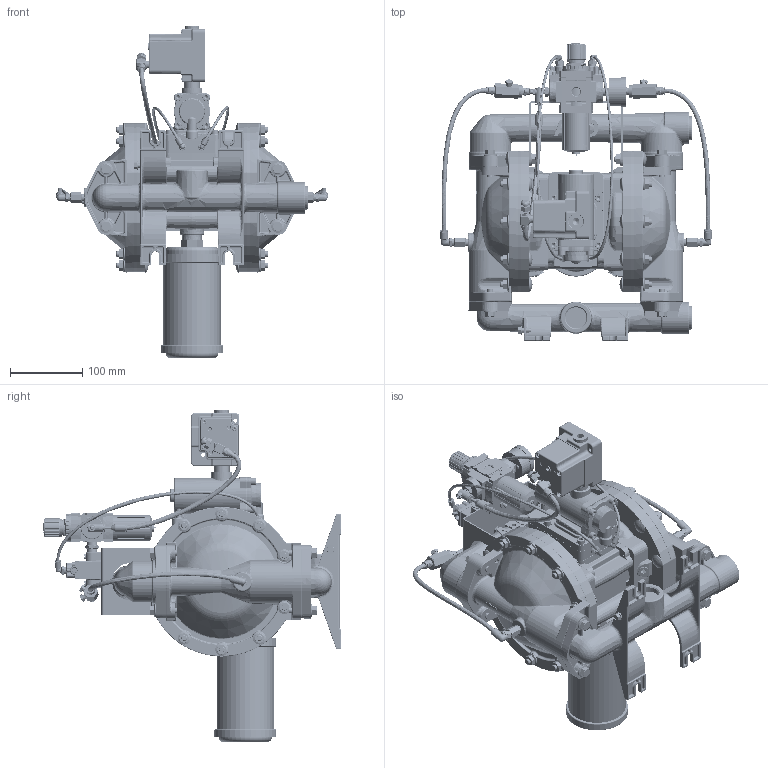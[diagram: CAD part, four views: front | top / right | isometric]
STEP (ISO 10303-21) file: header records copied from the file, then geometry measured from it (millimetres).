
FILE_DESCRIPTION(/* description */ (''),/* implementation_level */ '2;1');
FILE_NAME(/* name */ 'pp10a-aas-aaa-a_asm_stp_reduced.stp',/* time_stamp */ '2018-03-28T13:20:28-04:00',/* author */ (''),/* organization */ (''),/* preprocessor_version */ 'ST-DEVELOPER v14',/* originating_system */ 'SIEMENS PLM Software NX 8.0',/* authorisation */ '');
FILE_SCHEMA (('CONFIG_CONTROL_DESIGN'));
Length unit declared in the file: millimetre
Products named in the file (1): pp10a-aas-aaa-a_asm_stp_reduced
Bounding box: 375.21 x 410.84 x 458.53 mm (x, y, z)
Volume: 8024041.2 mm3; surface area: 699485.8 mm2
Topology: 2 solids, 7 shells, 9677 faces, 23651 edges, 14036 vertices
Faces by surface type: plane 2817, cylinder 2343, bspline 1696, cone 1105, torus 1009, sphere 485, extrusion 208, revolution 14
Full cylindrical faces by diameter (mm): 6.836 x1, 7.925 x4, 8.56 x2, 10 x4, 10.287 x2, 10.414 x2, 10.465 x1, 17.9 x6, 25 x1, 37 x1
Entity records: 414309 total; most frequent: CARTESIAN_POINT 203172, ORIENTED_EDGE 46656, DIRECTION 41183, EDGE_CURVE 23328, AXIS2_PLACEMENT_3D 16353, VERTEX_POINT 14037, EDGE_LOOP 10085, ADVANCED_FACE 9675
